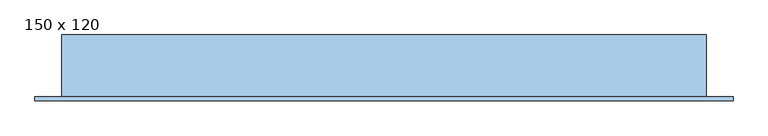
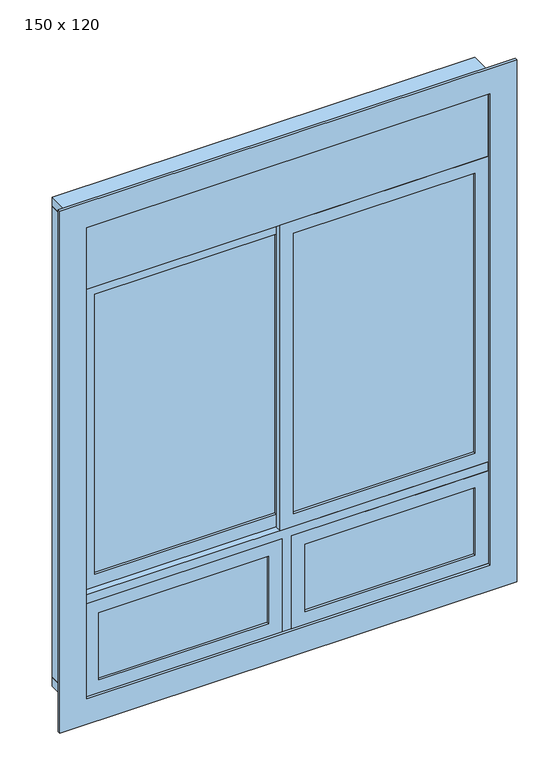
"""IFC4 building model written with IfcOpenShell, lengths in millimetres: window geometry, JANELA COM ESQUADRIA DE CORRER - 2 FOLHAS + BANDEIRA FIXA - 2 FOLHAS + PERSIANA INTEGRADA : 150 x 120."""

from ifc_helpers import new_model, si_unit, frame, origin, place, context, project, spatial, polyline, outline, extrude, source, transform, mapped, element, save


def window_150_x_120_4bd1545a(model_context):
    return source(origin(), model_context, "Body", "SweptSolid", [
        extrude(outline(polyline([(61.9035509, -60.3758395), (61.9035509, -66.3758395), (-570.5964491, -66.3758395), (-570.5964491, -60.3758395), (61.9035509, -60.3758395)])), frame((0.0, 0.0, 650.0), z_axis=(0.0, 0.0, 1.0), x_axis=(1.0, 0.0, 0.0)), (0.0, 0.0, 1.0), 265.0),
        extrude(outline(polyline([(965.0, 111.9035509), (965.0, -620.5964491), (600.0, -620.5964491), (600.0, 111.9035509), (965.0, 111.9035509)]), holes=[polyline([(915.0, 61.9035509), (650.0, 61.9035509), (650.0, -570.5964491), (915.0, -570.5964491), (915.0, 61.9035509)])]), frame((0.0, -75.8758395, 0.0), z_axis=(0.0, 1.0, 0.0), x_axis=(0.0, 0.0, 1.0)), (0.0, 0.0, 1.0), 25.0),
        extrude(outline(polyline([(829.4035509, -60.3758395), (829.4035509, -66.3758395), (196.9035509, -66.3758395), (196.9035509, -60.3758395), (829.4035509, -60.3758395)])), frame((0.0, 0.0, 650.0), z_axis=(0.0, 0.0, 1.0), x_axis=(1.0, 0.0, 0.0)), (0.0, 0.0, 1.0), 265.0),
        extrude(outline(polyline([(965.0, 879.4035509), (965.0, 146.9035509), (600.0, 146.9035509), (600.0, 879.4035509), (965.0, 879.4035509)]), holes=[polyline([(915.0, 829.4035509), (650.0, 829.4035509), (650.0, 196.9035509), (915.0, 196.9035509), (915.0, 829.4035509)])]), frame((0.0, -75.8758395, 0.0), z_axis=(0.0, 1.0, 0.0), x_axis=(0.0, 0.0, 1.0)), (0.0, 0.0, 1.0), 25.0),
        extrude(outline(polyline([(-570.5964491, -35.3758395), (104.4035509, -35.3758395), (104.4035509, -41.3758395), (-570.5964491, -41.3758395), (-570.5964491, -35.3758395)])), frame((0.0, 0.0, 1050.0), z_axis=(0.0, 0.0, 1.0), x_axis=(1.0, 0.0, 0.0)), (0.0, 0.0, 1.0), 1100.0),
        extrude(outline(polyline([(2200.0, -620.5964491), (1000.0, -620.5964491), (1000.0, 154.4035509), (2200.0, 154.4035509), (2200.0, -620.5964491)]), holes=[polyline([(2150.0, -570.5964491), (2150.0, 104.4035509), (1050.0, 104.4035509), (1050.0, -570.5964491), (2150.0, -570.5964491)])]), frame((0.0, -50.8758395, 0.0), z_axis=(0.0, 1.0, 0.0), x_axis=(0.0, 0.0, 1.0)), (0.0, 0.0, 1.0), 25.0),
        extrude(outline(polyline([(829.4035509, -60.3758395), (829.4035509, -66.3758395), (154.4035509, -66.3758395), (154.4035509, -60.3758395), (829.4035509, -60.3758395)])), frame((0.0, 0.0, 1050.0), z_axis=(0.0, 0.0, 1.0), x_axis=(1.0, 0.0, 0.0)), (0.0, 0.0, 1.0), 1100.0),
        extrude(outline(polyline([(2200.0, 879.4035509), (2200.0, 104.4035509), (1000.0, 104.4035509), (1000.0, 879.4035509), (2200.0, 879.4035509)]), holes=[polyline([(2150.0, 829.4035509), (1050.0, 829.4035509), (1050.0, 154.4035509), (2150.0, 154.4035509), (2150.0, 829.4035509)])]), frame((0.0, -75.8758395, 0.0), z_axis=(0.0, 1.0, 0.0), x_axis=(0.0, 0.0, 1.0)), (0.0, 0.0, 1.0), 25.0),
        extrude(outline(polyline([(500.0, -720.5964491), (500.0, 979.4035509), (2550.0, 979.4035509), (2550.0, -720.5964491), (500.0, -720.5964491)]), holes=[polyline([(2450.0, -620.5964491), (2450.0, 879.4035509), (600.0, 879.4035509), (600.0, -620.5964491), (2450.0, -620.5964491)])]), frame((0.0, -85.8758395, 0.0), z_axis=(0.0, 1.0, 0.0), x_axis=(0.0, 0.0, 1.0)), (0.0, 0.0, 1.0), 10.0),
        extrude(outline(polyline([(-655.5964491, 74.1241605), (-620.5964491, 74.1241605), (-620.5964491, -75.8758395), (-655.5964491, -75.8758395), (-655.5964491, 74.1241605)])), frame((0.0, 0.0, 600.0), z_axis=(0.0, 0.0, 1.0), x_axis=(1.0, 0.0, 0.0)), (0.0, 0.0, 1.0), 1850.0),
        extrude(outline(polyline([(879.4035509, 74.1241605), (914.4035509, 74.1241605), (914.4035509, -75.8758395), (879.4035509, -75.8758395), (879.4035509, 74.1241605)])), frame((0.0, 0.0, 600.0), z_axis=(0.0, 0.0, 1.0), x_axis=(1.0, 0.0, 0.0)), (0.0, 0.0, 1.0), 1850.0),
        extrude(outline(polyline([(1000.0, -620.5964491), (965.0, -620.5964491), (965.0, 111.9035509), (600.0, 111.9035509), (600.0, 146.9035509), (965.0, 146.9035509), (965.0, 879.4035509), (1000.0, 879.4035509), (1000.0, -620.5964491)])), frame((0.0, -75.8758395, 0.0), z_axis=(0.0, 1.0, 0.0), x_axis=(0.0, 0.0, 1.0)), (0.0, 0.0, 1.0), 60.0),
        extrude(outline(polyline([(-655.5964491, 74.1241605), (914.4035509, 74.1241605), (914.4035509, -75.8758395), (-655.5964491, -75.8758395), (-655.5964491, 74.1241605)])), frame((0.0, 0.0, 565.0), z_axis=(0.0, 0.0, 1.0), x_axis=(1.0, 0.0, 0.0)), (0.0, 0.0, 1.0), 35.0),
        extrude(outline(polyline([(879.4035509, 53.1241605), (879.4035509, 45.1241605), (-620.5964491, 45.1241605), (-620.5964491, 53.1241605), (879.4035509, 53.1241605)])), frame((0.0, 0.0, 2330.0), z_axis=(0.0, 0.0, 1.0), x_axis=(1.0, 0.0, 0.0)), (0.0, 0.0, 1.0), 120.0),
        extrude(outline(polyline([(879.4035509, 69.1241605), (879.4035509, 64.1241605), (-620.5964491, 64.1241605), (-620.5964491, 69.1241605), (879.4035509, 69.1241605)])), frame((0.0, 0.0, 2200.0), z_axis=(0.0, 0.0, 1.0), x_axis=(1.0, 0.0, 0.0)), (0.0, 0.0, 1.0), 250.0),
        extrude(outline(polyline([(-75.8758395, 2200.0), (-75.8758395, 2450.0), (-70.8758395, 2450.0), (-70.8758395, 2205.0), (34.1241605, 2205.0), (34.1241605, 2200.0), (-75.8758395, 2200.0)])), frame((-620.5964491, 0.0, 0.0), z_axis=(1.0, 0.0, 0.0), x_axis=(0.0, 1.0, 0.0)), (0.0, 0.0, 1.0), 1500.0),
        extrude(outline(polyline([(-655.5964491, 74.1241605), (914.4035509, 74.1241605), (914.4035509, -75.8758395), (-655.5964491, -75.8758395), (-655.5964491, 74.1241605)])), frame((0.0, 0.0, 2450.0), z_axis=(0.0, 0.0, 1.0), x_axis=(1.0, 0.0, 0.0)), (0.0, 0.0, 1.0), 35.0),
        extrude(outline(polyline([(-580.5964491, 64.1241605), (-580.5964491, 59.1241605), (-620.5964491, 59.1241605), (-620.5964491, 64.1241605), (-580.5964491, 64.1241605)])), frame((0.0, 0.0, 600.0), z_axis=(0.0, 0.0, 1.0), x_axis=(1.0, 0.0, 0.0)), (0.0, 0.0, 1.0), 1850.0),
        extrude(outline(polyline([(-620.5964491, 39.1241605), (-580.5964491, 39.1241605), (-580.5964491, 34.1241605), (-620.5964491, 34.1241605), (-620.5964491, 39.1241605)])), frame((0.0, 0.0, 600.0), z_axis=(0.0, 0.0, 1.0), x_axis=(1.0, 0.0, 0.0)), (0.0, 0.0, 1.0), 1850.0),
        extrude(outline(polyline([(839.4035509, 64.1241605), (879.4035509, 64.1241605), (879.4035509, 59.1241605), (839.4035509, 59.1241605), (839.4035509, 64.1241605)])), frame((0.0, 0.0, 600.0), z_axis=(0.0, 0.0, 1.0), x_axis=(1.0, 0.0, 0.0)), (0.0, 0.0, 1.0), 1850.0),
        extrude(outline(polyline([(879.4035509, 39.1241605), (879.4035509, 34.1241605), (839.4035509, 34.1241605), (839.4035509, 39.1241605), (879.4035509, 39.1241605)])), frame((0.0, 0.0, 600.0), z_axis=(0.0, 0.0, 1.0), x_axis=(1.0, 0.0, 0.0)), (0.0, 0.0, 1.0), 1850.0),
    ])


if __name__ == "__main__":
    model = new_model("IFC4")
    model_context = context("Model", 3, world=origin())
    ifc_project = project(units=[si_unit("LENGTHUNIT", "METRE", prefix="MILLI")], contexts=[model_context])
    site = spatial("IfcSite", under=ifc_project)
    building = spatial("IfcBuilding", under=site)
    placement = place(None, origin())
    window_150_x_120_shape = window_150_x_120_4bd1545a(model_context)
    element("IfcWindow", 1, ObjectType="JANELA COM ESQUADRIA DE CORRER - 2 FOLHAS + BANDEIRA FIXA - 2 FOLHAS + PERSIANA INTEGRADA : 150 x 120", at=placement, inside=building, context=model_context, shape_type="MappedRepresentation", body=[
        mapped(window_150_x_120_shape, transform((0.0, 0.0, 0.0), x_axis=(1.0, 0.0, 0.0), y_axis=(0.0, 1.0, 0.0), z_axis=(0.0, 0.0, 1.0))),
    ])
    save(model, "model.ifc")
